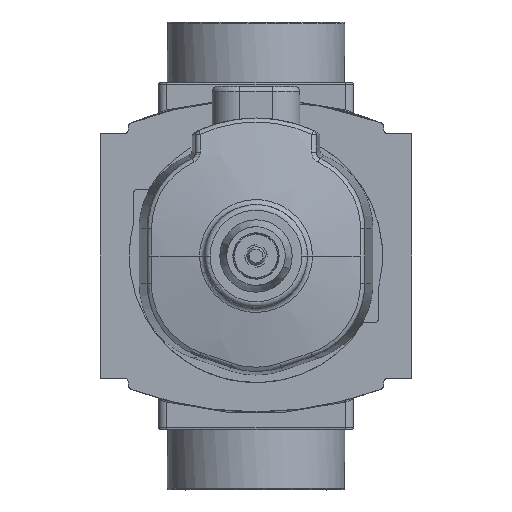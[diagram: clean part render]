
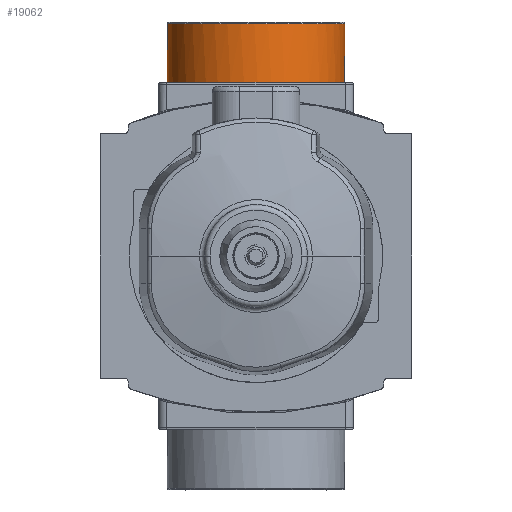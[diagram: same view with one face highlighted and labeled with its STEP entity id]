
A CAD part, front view. The second image highlights one B-rep face of the part: STEP entity #19062.
In plain terms, the highlighted cylindrical face has radius 15.95 mm (diameter 31.9 mm), a partial arc.
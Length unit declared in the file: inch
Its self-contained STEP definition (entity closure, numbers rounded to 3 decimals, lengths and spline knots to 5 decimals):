
#12808=CYLINDRICAL_SURFACE('',#41695,0.62795);
#13472=B_SPLINE_CURVE_WITH_KNOTS('',3,(#51113,#51114,#51115,#51116,#51117,
#51118,#51119,#51120,#51121,#51122),.UNSPECIFIED.,.F.,.F.,(4,2,2,2,4),(0.,
0.25,0.5,0.75,1.),.UNSPECIFIED.);
#13494=B_SPLINE_CURVE_WITH_KNOTS('',3,(#51477,#51478,#51479,#51480,#51481,
#51482,#51483,#51484,#51485,#51486),.UNSPECIFIED.,.F.,.F.,(4,2,2,2,4),(0.,
0.25,0.5,0.75,1.),.UNSPECIFIED.);
#15929=LINE('',#51475,#17453);
#15930=LINE('',#51488,#17454);
#17453=VECTOR('',#43770,1.);
#17454=VECTOR('',#43771,1.);
#19062=ADVANCED_FACE('',(#21939),#12808,.T.);
#21939=FACE_OUTER_BOUND('',#23718,.T.);
#23718=EDGE_LOOP('',(#25911,#25912,#25913,#25914));
#25911=ORIENTED_EDGE('',*,*,#37364,.F.);
#25912=ORIENTED_EDGE('',*,*,#37398,.T.);
#25913=ORIENTED_EDGE('',*,*,#37399,.F.);
#25914=ORIENTED_EDGE('',*,*,#37400,.T.);
#34573=VERTEX_POINT('',#51107);
#34574=VERTEX_POINT('',#51112);
#34596=VERTEX_POINT('',#51476);
#34597=VERTEX_POINT('',#51487);
#37364=EDGE_CURVE('',#34574,#34573,#13472,.T.);
#37398=EDGE_CURVE('',#34574,#34596,#15929,.T.);
#37399=EDGE_CURVE('',#34597,#34596,#13494,.T.);
#37400=EDGE_CURVE('',#34597,#34573,#15930,.T.);
#41695=AXIS2_PLACEMENT_3D('',#51489,#43772,#43773);
#43770=DIRECTION('',(0.,0.,-1.));
#43771=DIRECTION('',(0.,0.,1.));
#43772=DIRECTION('',(0.,0.,-1.));
#43773=DIRECTION('',(-1.,0.,0.));
#51107=CARTESIAN_POINT('',(0.62795,1.3189,1.6437));
#51112=CARTESIAN_POINT('',(-0.62795,1.3189,1.6437));
#51113=CARTESIAN_POINT('',(-0.62795,1.3189,1.6437));
#51114=CARTESIAN_POINT('',(-0.62795,1.1545,1.6437));
#51115=CARTESIAN_POINT('',(-0.56028,0.99111,1.6437));
#51116=CARTESIAN_POINT('',(-0.32778,0.75862,1.6437));
#51117=CARTESIAN_POINT('',(-0.1644,0.69094,1.6437));
#51118=CARTESIAN_POINT('',(0.1644,0.69094,1.6437));
#51119=CARTESIAN_POINT('',(0.32778,0.75862,1.6437));
#51120=CARTESIAN_POINT('',(0.56028,0.99111,1.6437));
#51121=CARTESIAN_POINT('',(0.62795,1.1545,1.6437));
#51122=CARTESIAN_POINT('',(0.62795,1.3189,1.6437));
#51475=CARTESIAN_POINT('',(-0.62795,1.3189,236222.11614));
#51476=CARTESIAN_POINT('',(-0.62795,1.3189,1.22835));
#51477=CARTESIAN_POINT('',(0.62795,1.3189,1.22835));
#51478=CARTESIAN_POINT('',(0.62794,1.15414,1.22835));
#51479=CARTESIAN_POINT('',(0.56028,0.99113,1.22835));
#51480=CARTESIAN_POINT('',(0.32777,0.75861,1.22835));
#51481=CARTESIAN_POINT('',(0.16441,0.69095,1.22835));
#51482=CARTESIAN_POINT('',(-0.16441,0.69094,1.22835));
#51483=CARTESIAN_POINT('',(-0.32777,0.75861,1.22835));
#51484=CARTESIAN_POINT('',(-0.56029,0.99112,1.22835));
#51485=CARTESIAN_POINT('',(-0.62794,1.15408,1.22835));
#51486=CARTESIAN_POINT('',(-0.62795,1.3189,1.22835));
#51487=CARTESIAN_POINT('',(0.62795,1.3189,1.22835));
#51488=CARTESIAN_POINT('',(0.62795,1.3189,236222.11614));
#51489=CARTESIAN_POINT('',(0.,1.3189,236222.11614));
